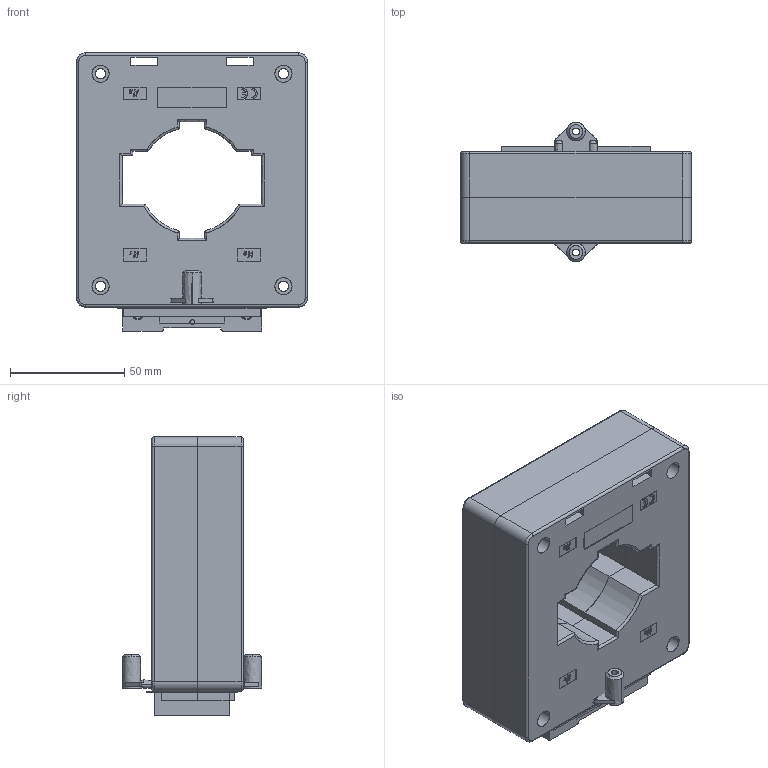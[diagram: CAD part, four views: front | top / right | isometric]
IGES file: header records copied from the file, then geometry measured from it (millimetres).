
Start section: SolidWorks IGES file using analytic representation for surfaces
Bounding box: 101 x 60.9 x 121.7 mm (x, y, z)
Surface area: 114673.6 mm2 (no closed solid volume)
Topology: 0 solids, 0 shells, 1444 faces, 15107 edges, 15107 vertices
Faces by surface type: bspline 1046, revolution 398
